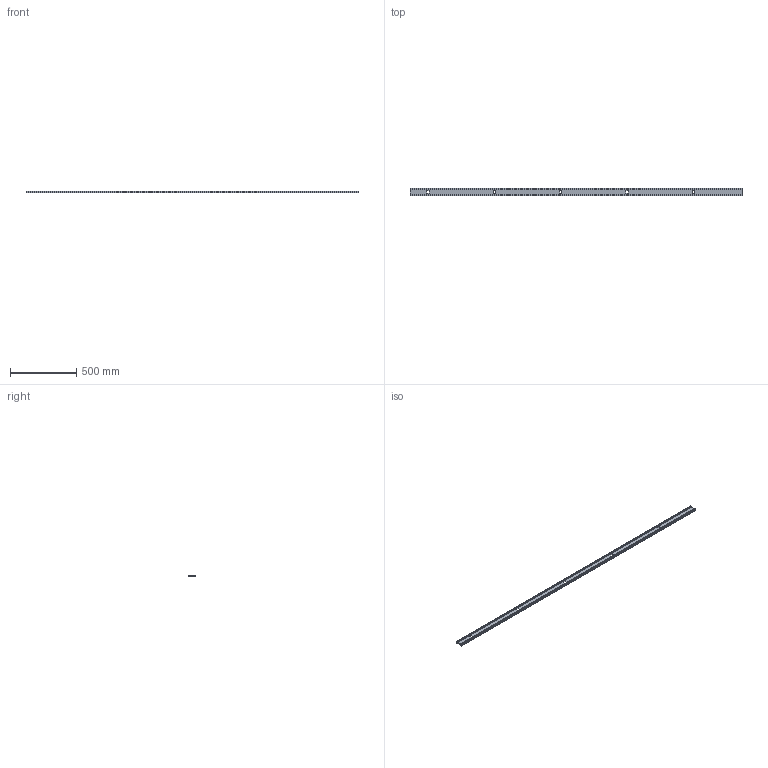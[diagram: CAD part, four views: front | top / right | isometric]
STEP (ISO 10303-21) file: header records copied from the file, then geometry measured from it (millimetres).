
FILE_DESCRIPTION(('STEP AP242'),'1');
FILE_NAME('OPO_65.081.73_volu_3d.stp','2026-01-30T20:51:40',(' '),(' '),'Spatial InterOp 3D',' ',' ');
FILE_SCHEMA(('AP242_MANAGED_MODEL_BASED_3D_ENGINEERING_MIM_LF {1 0 10303 442 1 1 4}'));
Length unit declared in the file: millimetre
Products named in the file (1): 1
Bounding box: 2500 x 55 x 15 mm (x, y, z)
Volume: 615140 mm3; surface area: 538336 mm2
Topology: 1 solids, 1 shells, 92 faces, 256 edges, 170 vertices
Faces by surface type: plane 72, cylinder 20
Entity records: 3696 total; most frequent: CARTESIAN_POINT 519, ORIENTED_EDGE 512, DIRECTION 482, EDGE_CURVE 256, LINE 216, VECTOR 216, VERTEX_POINT 170, AXIS2_PLACEMENT_3D 133
